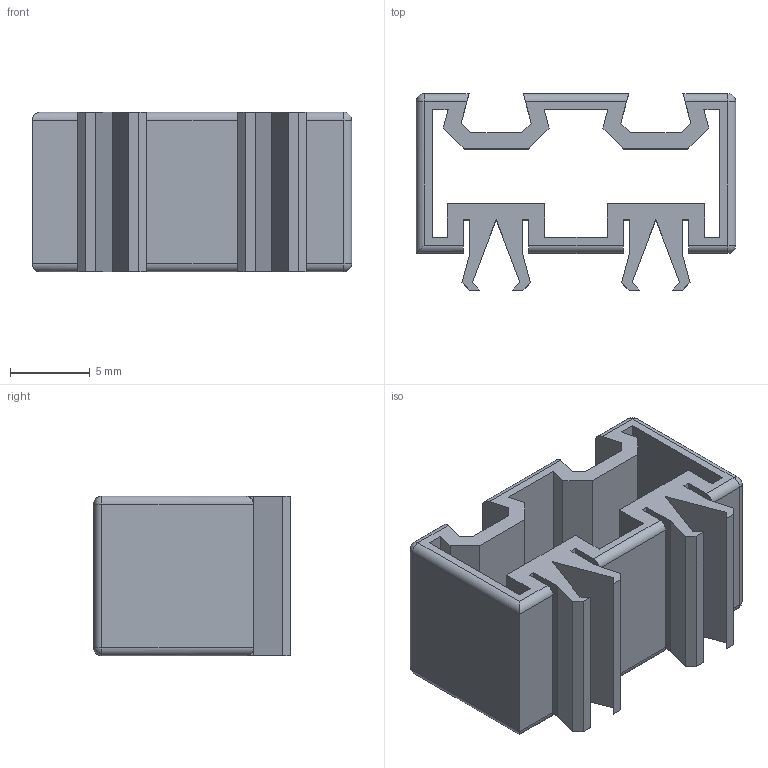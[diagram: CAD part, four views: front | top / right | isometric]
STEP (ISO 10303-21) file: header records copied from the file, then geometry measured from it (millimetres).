
FILE_DESCRIPTION(/* description */ (''),/* implementation_level */ '2;1');
FILE_NAME(/* name */ 'C:/Users/priba/Downloads/Brick1x2x1CrossSideless.step',/* time_stamp */ '2022-04-03T10:45:07+02:00',/* author */ (''),/* organization */ (''),/* preprocessor_version */ 'ST-DEVELOPER v18.1',/* originating_system */ 'Autodesk Translation Framework v10.13.0.1454',/* authorisation */ '');
FILE_SCHEMA (('AUTOMOTIVE_DESIGN { 1 0 10303 214 3 1 1 }'));
Length unit declared in the file: millimetre
Products named in the file (1): Brick1x2x1CrossSideless
Bounding box: 20 x 12.31 x 10 mm (x, y, z)
Volume: 903.9 mm3; surface area: 1973.1 mm2
Topology: 1 solids, 1 shells, 103 faces, 283 edges, 182 vertices
Faces by surface type: plane 78, cylinder 19, sphere 6
Entity records: 3239 total; most frequent: CARTESIAN_POINT 569, ORIENTED_EDGE 566, DIRECTION 527, EDGE_CURVE 283, LINE 247, VECTOR 247, VERTEX_POINT 182, AXIS2_PLACEMENT_3D 140
